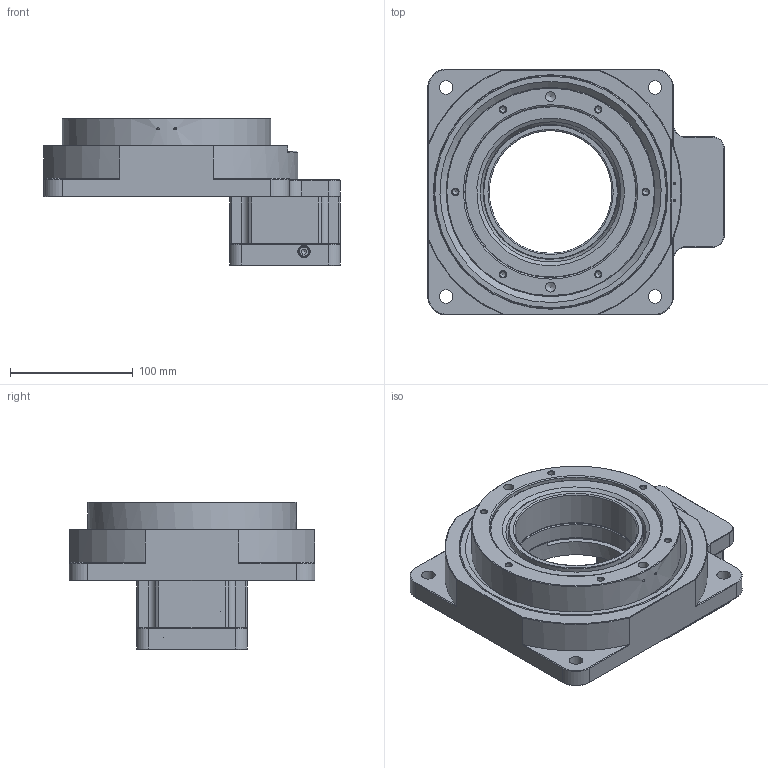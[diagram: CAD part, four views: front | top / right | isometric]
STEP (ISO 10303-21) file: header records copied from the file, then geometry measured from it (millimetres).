
FILE_DESCRIPTION((''),'2;1');
FILE_NAME('D:\유성\액추에이터\작성도면\액추에이터 3d\200\SHA200SV018 (1 STAGE-A TYPE).stp','2014-05-22T15:10:07',('nagyu'),(''),'Autodesk Inventor 2013','Autodesk Inventor 2013','');
FILE_SCHEMA(('AUTOMOTIVE_DESIGN { 1 0 10303 214 1 1 1 1 }'));
Length unit declared in the file: millimetre
Products named in the file (1): SHA200SV018 (1 STAGE-A TYPE)_Shrinkwrap_1
Bounding box: 241.42 x 200 x 120 mm (x, y, z)
Volume: 1657503.3 mm3; surface area: 365139.6 mm2
Topology: 2 solids, 24 shells, 1444 faces, 3866 edges, 2499 vertices
Faces by surface type: bspline 570, cylinder 392, plane 273, cone 169, torus 40
Full cylindrical faces by diameter (mm): 1.5 x2, 2.013 x4, 3.242 x1, 4.134 x20, 4.917 x10, 5 x6, 5.5 x21, 7.9 x1, 8 x5, 8.5 x6, 9.5 x20, 10 x1, 11 x4, 14.5 x1, 17.5 x1, 19.2 x1, 21.7 x1, 28.6 x1, 29.8 x1, 29.9 x1, 30 x2, 34 x1, 34.282 x2, 38 x1, 39.6 x1, 42 x2, 49 x2, 55 x2, 57 x1, 57.6 x1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
Entity records: 54290 total; most frequent: CARTESIAN_POINT 21918, ORIENTED_EDGE 6936, DIRECTION 5307, EDGE_CURVE 3468, AXIS2_PLACEMENT_3D 2455, VERTEX_POINT 2407, EDGE_LOOP 1852, CIRCLE 1572
